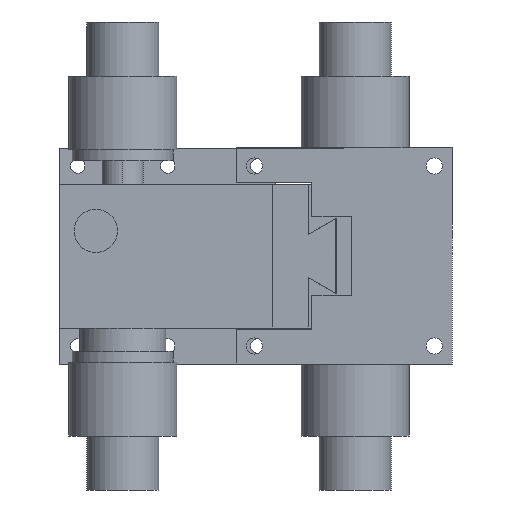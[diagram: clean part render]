
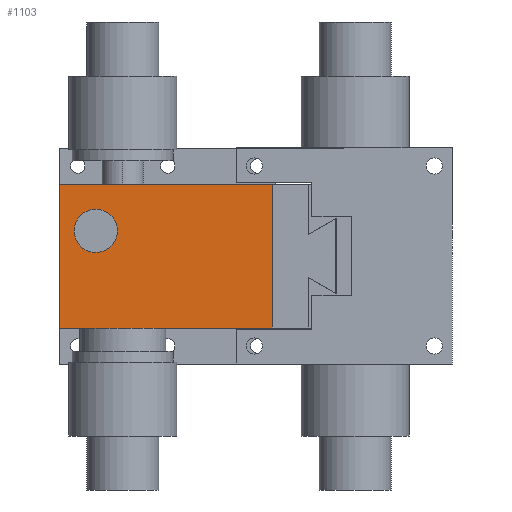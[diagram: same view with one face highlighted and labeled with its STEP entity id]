
A CAD part, front view. The second image highlights one B-rep face of the part: STEP entity #1103.
In plain terms, the highlighted planar face has unit normal (0, -1, 0).
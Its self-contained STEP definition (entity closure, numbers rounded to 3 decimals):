
#305 = VERTEX_POINT ( 'NONE', #2586 ) ;
#307 = EDGE_CURVE ( 'NONE', #308, #305, #2585, .T. ) ;
#308 = VERTEX_POINT ( 'NONE', #2580 ) ;
#650 = VERTEX_POINT ( 'NONE', #3348 ) ;
#653 = VERTEX_POINT ( 'NONE', #3342 ) ;
#835 = VERTEX_POINT ( 'NONE', #3449 ) ;
#837 = EDGE_CURVE ( 'NONE', #650, #835, #3448, .T. ) ;
#857 = VERTEX_POINT ( 'NONE', #3516 ) ;
#858 = ORIENTED_EDGE ( 'NONE', *, *, #1145, .F. ) ;
#946 = EDGE_CURVE ( 'NONE', #835, #947, #3745, .T. ) ;
#947 = VERTEX_POINT ( 'NONE', #3741 ) ;
#1026 = EDGE_CURVE ( 'NONE', #1027, #653, #3852, .T. ) ;
#1027 = VERTEX_POINT ( 'NONE', #3848 ) ;
#1035 = EDGE_CURVE ( 'NONE', #305, #308, #3841, .T. ) ;
#1039 = EDGE_CURVE ( 'NONE', #653, #650, #3830, .T. ) ;
#1103 = ADVANCED_FACE ( 'NONE', ( #3942, #3941 ), #3940, .F. ) ;
#1104 = EDGE_LOOP ( 'NONE', ( #1105, #1106, #858, #1146, #1147, #1148 ) ) ;
#1105 = ORIENTED_EDGE ( 'NONE', *, *, #946, .T. ) ;
#1106 = ORIENTED_EDGE ( 'NONE', *, *, #1107, .F. ) ;
#1107 = EDGE_CURVE ( 'NONE', #857, #947, #3935, .T. ) ;
#1145 = EDGE_CURVE ( 'NONE', #1027, #857, #3901, .T. ) ;
#1146 = ORIENTED_EDGE ( 'NONE', *, *, #1026, .T. ) ;
#1147 = ORIENTED_EDGE ( 'NONE', *, *, #1039, .T. ) ;
#1148 = ORIENTED_EDGE ( 'NONE', *, *, #837, .T. ) ;
#1149 = EDGE_LOOP ( 'NONE', ( #1150, #1151 ) ) ;
#1150 = ORIENTED_EDGE ( 'NONE', *, *, #307, .T. ) ;
#1151 = ORIENTED_EDGE ( 'NONE', *, *, #1035, .T. ) ;
#2580 = CARTESIAN_POINT ( 'NONE',  ( -69.02, 26., 9. ) ) ;
#2581 = DIRECTION ( 'NONE',  ( -1., 0., 0. ) ) ;
#2582 = DIRECTION ( 'NONE',  ( 0., 1., 0. ) ) ;
#2583 = CARTESIAN_POINT ( 'NONE',  ( -69.02, 26., 7. ) ) ;
#2584 = AXIS2_PLACEMENT_3D ( 'NONE', #2583, #2582, #2581 ) ;
#2585 = CIRCLE ( 'NONE', #2584, 2. ) ;
#2586 = CARTESIAN_POINT ( 'NONE',  ( -69.02, 26., 5. ) ) ;
#3342 = CARTESIAN_POINT ( 'NONE',  ( -70.887, 26., -20. ) ) ;
#3348 = CARTESIAN_POINT ( 'NONE',  ( -52.152, 26., -20. ) ) ;
#3448 = LINE ( 'NONE', #3505, #3504 ) ;
#3449 = CARTESIAN_POINT ( 'NONE',  ( -19.02, 26., -20. ) ) ;
#3503 = DIRECTION ( 'NONE',  ( 1., 0., 0. ) ) ;
#3504 = VECTOR ( 'NONE', #3503, 1000. ) ;
#3505 = CARTESIAN_POINT ( 'NONE',  ( -79.02, 26., -20. ) ) ;
#3516 = CARTESIAN_POINT ( 'NONE',  ( -79.02, 26., 20. ) ) ;
#3741 = CARTESIAN_POINT ( 'NONE',  ( -19.02, 26., 20. ) ) ;
#3742 = DIRECTION ( 'NONE',  ( 0., 0., 1. ) ) ;
#3743 = VECTOR ( 'NONE', #3742, 1000. ) ;
#3744 = CARTESIAN_POINT ( 'NONE',  ( -19.02, 26., -20. ) ) ;
#3745 = LINE ( 'NONE', #3744, #3743 ) ;
#3827 = DIRECTION ( 'NONE',  ( 1., 0., 0. ) ) ;
#3828 = VECTOR ( 'NONE', #3827, 1000. ) ;
#3829 = CARTESIAN_POINT ( 'NONE',  ( -79.02, 26., -20. ) ) ;
#3830 = LINE ( 'NONE', #3829, #3828 ) ;
#3837 = DIRECTION ( 'NONE',  ( -1., 0., 0. ) ) ;
#3838 = DIRECTION ( 'NONE',  ( 0., 1., 0. ) ) ;
#3839 = CARTESIAN_POINT ( 'NONE',  ( -69.02, 26., 7. ) ) ;
#3840 = AXIS2_PLACEMENT_3D ( 'NONE', #3839, #3838, #3837 ) ;
#3841 = CIRCLE ( 'NONE', #3840, 2. ) ;
#3848 = CARTESIAN_POINT ( 'NONE',  ( -79.02, 26., -20. ) ) ;
#3849 = DIRECTION ( 'NONE',  ( 1., 0., 0. ) ) ;
#3850 = VECTOR ( 'NONE', #3849, 1000. ) ;
#3851 = CARTESIAN_POINT ( 'NONE',  ( -79.02, 26., -20. ) ) ;
#3852 = LINE ( 'NONE', #3851, #3850 ) ;
#3898 = DIRECTION ( 'NONE',  ( 0., 0., 1. ) ) ;
#3899 = VECTOR ( 'NONE', #3898, 1000. ) ;
#3900 = CARTESIAN_POINT ( 'NONE',  ( -79.02, 26., -20. ) ) ;
#3901 = LINE ( 'NONE', #3900, #3899 ) ;
#3932 = DIRECTION ( 'NONE',  ( 1., 0., 0. ) ) ;
#3933 = VECTOR ( 'NONE', #3932, 1000. ) ;
#3934 = CARTESIAN_POINT ( 'NONE',  ( -79.02, 26., 20. ) ) ;
#3935 = LINE ( 'NONE', #3934, #3933 ) ;
#3936 = DIRECTION ( 'NONE',  ( -1., 0., 0. ) ) ;
#3937 = DIRECTION ( 'NONE',  ( 0., 1., 0. ) ) ;
#3938 = CARTESIAN_POINT ( 'NONE',  ( -79.02, 26., -20. ) ) ;
#3939 = AXIS2_PLACEMENT_3D ( 'NONE', #3938, #3937, #3936 ) ;
#3940 = PLANE ( 'NONE',  #3939 ) ;
#3941 = FACE_BOUND ( 'NONE', #1149, .T. ) ;
#3942 = FACE_OUTER_BOUND ( 'NONE', #1104, .T. ) ;
